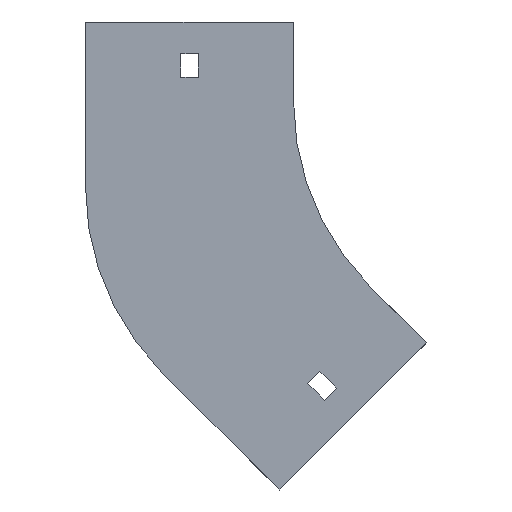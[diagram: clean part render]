
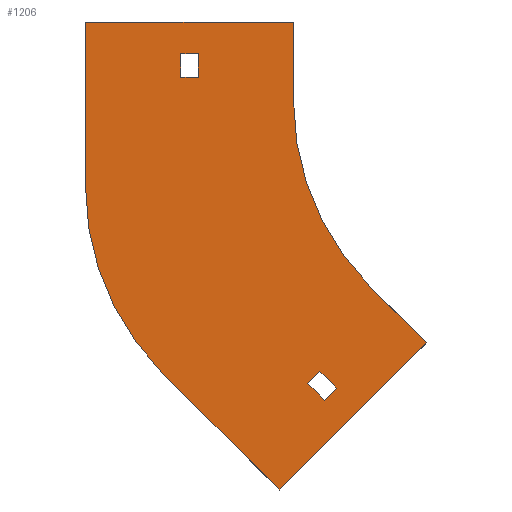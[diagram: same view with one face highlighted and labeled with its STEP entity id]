
A CAD part, front view. The second image highlights one B-rep face of the part: STEP entity #1206.
In plain terms, the highlighted planar face has unit normal (0, -1, 0).
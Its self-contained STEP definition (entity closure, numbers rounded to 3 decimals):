
#8 = LINE ( 'NONE', #466, #720 ) ;
#17 = LINE ( 'NONE', #1523, #1073 ) ;
#49 = DIRECTION ( 'NONE',  ( 0., 0., 1. ) ) ;
#69 = DIRECTION ( 'NONE',  ( 0., -1., 0. ) ) ;
#70 = EDGE_LOOP ( 'NONE', ( #1466, #823, #1079, #842 ) ) ;
#79 = EDGE_CURVE ( 'NONE', #1849, #1784, #17, .T. ) ;
#124 = DIRECTION ( 'NONE',  ( -0.707, 0., -0.707 ) ) ;
#152 = CARTESIAN_POINT ( 'NONE',  ( -83.615, 0., -109.071 ) ) ;
#184 = CARTESIAN_POINT ( 'NONE',  ( -49.497, 0., -91.924 ) ) ;
#197 = LINE ( 'NONE', #785, #782 ) ;
#210 = ORIENTED_EDGE ( 'NONE', *, *, #1355, .F. ) ;
#218 = ORIENTED_EDGE ( 'NONE', *, *, #1926, .F. ) ;
#233 = ORIENTED_EDGE ( 'NONE', *, *, #435, .F. ) ;
#251 = PLANE ( 'NONE',  #1440 ) ;
#257 = VERTEX_POINT ( 'NONE', #1884 ) ;
#266 = VECTOR ( 'NONE', #1333, 1000. ) ;
#278 = LINE ( 'NONE', #903, #1200 ) ;
#279 = FACE_BOUND ( 'NONE', #70, .T. ) ;
#286 = CARTESIAN_POINT ( 'NONE',  ( -136.25, 0., 18. ) ) ;
#294 = VECTOR ( 'NONE', #494, 1000. ) ;
#308 = LINE ( 'NONE', #443, #758 ) ;
#328 = CIRCLE ( 'NONE', #856, 100. ) ;
#330 = CARTESIAN_POINT ( 'NONE',  ( -179., 0., -32.723 ) ) ;
#332 = DIRECTION ( 'NONE',  ( -0.707, 0., 0.707 ) ) ;
#334 = CARTESIAN_POINT ( 'NONE',  ( -70.711, 0., -70.711 ) ) ;
#339 = EDGE_CURVE ( 'NONE', #369, #257, #278, .T. ) ;
#366 = VECTOR ( 'NONE', #866, 1000. ) ;
#369 = VERTEX_POINT ( 'NONE', #870 ) ;
#376 = LINE ( 'NONE', #858, #571 ) ;
#395 = VERTEX_POINT ( 'NONE', #907 ) ;
#435 = EDGE_CURVE ( 'NONE', #1784, #1778, #1855, .T. ) ;
#443 = CARTESIAN_POINT ( 'NONE',  ( -179., 0., -32.723 ) ) ;
#466 = CARTESIAN_POINT ( 'NONE',  ( -49.497, 0., -91.924 ) ) ;
#494 = DIRECTION ( 'NONE',  ( -0.707, 0., 0.707 ) ) ;
#502 = EDGE_CURVE ( 'NONE', #257, #1702, #628, .T. ) ;
#504 = VERTEX_POINT ( 'NONE', #1857 ) ;
#505 = LINE ( 'NONE', #653, #522 ) ;
#512 = EDGE_CURVE ( 'NONE', #1228, #395, #1837, .T. ) ;
#522 = VECTOR ( 'NONE', #1562, 1000. ) ;
#525 = EDGE_CURVE ( 'NONE', #504, #550, #328, .T. ) ;
#550 = VERTEX_POINT ( 'NONE', #334 ) ;
#554 = ORIENTED_EDGE ( 'NONE', *, *, #985, .F. ) ;
#571 = VECTOR ( 'NONE', #1910, 1000. ) ;
#608 = LINE ( 'NONE', #1063, #644 ) ;
#609 = DIRECTION ( 'NONE',  ( -0.707, 0., -0.707 ) ) ;
#624 = EDGE_CURVE ( 'NONE', #763, #504, #376, .T. ) ;
#628 = LINE ( 'NONE', #638, #1929 ) ;
#638 = CARTESIAN_POINT ( 'NONE',  ( -142.75, 0., 9. ) ) ;
#644 = VECTOR ( 'NONE', #1374, 1000. ) ;
#653 = CARTESIAN_POINT ( 'NONE',  ( -136.25, 0., 9. ) ) ;
#675 = DIRECTION ( 'NONE',  ( 0., 0., -1. ) ) ;
#696 = ORIENTED_EDGE ( 'NONE', *, *, #1514, .F. ) ;
#720 = VECTOR ( 'NONE', #609, 1000. ) ;
#753 = LINE ( 'NONE', #1922, #266 ) ;
#758 = VECTOR ( 'NONE', #1039, 1000. ) ;
#762 = VECTOR ( 'NONE', #1136, 1000. ) ;
#763 = VERTEX_POINT ( 'NONE', #1707 ) ;
#782 = VECTOR ( 'NONE', #1555, 1000. ) ;
#785 = CARTESIAN_POINT ( 'NONE',  ( -88.212, 0., -113.667 ) ) ;
#822 = DIRECTION ( 'NONE',  ( 0., 0., 1. ) ) ;
#823 = ORIENTED_EDGE ( 'NONE', *, *, #1681, .T. ) ;
#842 = ORIENTED_EDGE ( 'NONE', *, *, #339, .T. ) ;
#856 = AXIS2_PLACEMENT_3D ( 'NONE', #1108, #69, #675 ) ;
#858 = CARTESIAN_POINT ( 'NONE',  ( -100., 0., 30. ) ) ;
#866 = DIRECTION ( 'NONE',  ( 1., 0., 0. ) ) ;
#867 = EDGE_CURVE ( 'NONE', #395, #1074, #1468, .T. ) ;
#870 = CARTESIAN_POINT ( 'NONE',  ( -136.25, 0., 9. ) ) ;
#903 = CARTESIAN_POINT ( 'NONE',  ( -142.75, 0., 9. ) ) ;
#907 = CARTESIAN_POINT ( 'NONE',  ( -89.979, 0., -102.707 ) ) ;
#967 = CARTESIAN_POINT ( 'NONE',  ( -105.359, 0., -147.785 ) ) ;
#985 = EDGE_CURVE ( 'NONE', #550, #1030, #608, .T. ) ;
#989 = CARTESIAN_POINT ( 'NONE',  ( -149.711, 0., -103.434 ) ) ;
#1030 = VERTEX_POINT ( 'NONE', #184 ) ;
#1039 = DIRECTION ( 'NONE',  ( 0., 0., 1. ) ) ;
#1063 = CARTESIAN_POINT ( 'NONE',  ( -70.711, 0., -70.711 ) ) ;
#1073 = VECTOR ( 'NONE', #332, 1000. ) ;
#1074 = VERTEX_POINT ( 'NONE', #1492 ) ;
#1079 = ORIENTED_EDGE ( 'NONE', *, *, #1895, .T. ) ;
#1092 = CARTESIAN_POINT ( 'NONE',  ( -89.979, 0., -102.707 ) ) ;
#1108 = CARTESIAN_POINT ( 'NONE',  ( 0., 0., 0. ) ) ;
#1136 = DIRECTION ( 'NONE',  ( 1., 0., 0. ) ) ;
#1148 = VERTEX_POINT ( 'NONE', #1353 ) ;
#1156 = DIRECTION ( 'NONE',  ( 0., -1., 0. ) ) ;
#1167 = AXIS2_PLACEMENT_3D ( 'NONE', #1234, #1571, #49 ) ;
#1181 = DIRECTION ( 'NONE',  ( 0., 0., -1. ) ) ;
#1192 = EDGE_CURVE ( 'NONE', #1074, #1148, #753, .T. ) ;
#1200 = VECTOR ( 'NONE', #1302, 1000. ) ;
#1206 = ADVANCED_FACE ( 'NONE', ( #279, #1640, #1774 ), #251, .T. ) ;
#1209 = ORIENTED_EDGE ( 'NONE', *, *, #512, .F. ) ;
#1228 = VERTEX_POINT ( 'NONE', #152 ) ;
#1234 = CARTESIAN_POINT ( 'NONE',  ( -79., 0., -32.723 ) ) ;
#1289 = CARTESIAN_POINT ( 'NONE',  ( -94.576, 0., -107.303 ) ) ;
#1302 = DIRECTION ( 'NONE',  ( -1., 0., 0. ) ) ;
#1333 = DIRECTION ( 'NONE',  ( 0.707, 0., -0.707 ) ) ;
#1342 = CARTESIAN_POINT ( 'NONE',  ( -179., 0., 30. ) ) ;
#1353 = CARTESIAN_POINT ( 'NONE',  ( -88.212, 0., -113.667 ) ) ;
#1355 = EDGE_CURVE ( 'NONE', #1778, #1726, #308, .T. ) ;
#1374 = DIRECTION ( 'NONE',  ( 0.707, 0., -0.707 ) ) ;
#1393 = ORIENTED_EDGE ( 'NONE', *, *, #624, .F. ) ;
#1400 = ORIENTED_EDGE ( 'NONE', *, *, #79, .F. ) ;
#1410 = EDGE_LOOP ( 'NONE', ( #218, #210, #233, #1400, #1583, #554, #1596, #1393 ) ) ;
#1440 = AXIS2_PLACEMENT_3D ( 'NONE', #1615, #1156, #1181 ) ;
#1456 = VECTOR ( 'NONE', #124, 1000. ) ;
#1466 = ORIENTED_EDGE ( 'NONE', *, *, #502, .T. ) ;
#1468 = LINE ( 'NONE', #1289, #1456 ) ;
#1471 = LINE ( 'NONE', #1746, #366 ) ;
#1492 = CARTESIAN_POINT ( 'NONE',  ( -94.576, 0., -107.303 ) ) ;
#1514 = EDGE_CURVE ( 'NONE', #1148, #1228, #197, .T. ) ;
#1523 = CARTESIAN_POINT ( 'NONE',  ( -105.359, 0., -147.785 ) ) ;
#1546 = ORIENTED_EDGE ( 'NONE', *, *, #1192, .F. ) ;
#1555 = DIRECTION ( 'NONE',  ( 0.707, 0., 0.707 ) ) ;
#1562 = DIRECTION ( 'NONE',  ( 0., 0., -1. ) ) ;
#1571 = DIRECTION ( 'NONE',  ( 0., 1., 0. ) ) ;
#1583 = ORIENTED_EDGE ( 'NONE', *, *, #1767, .F. ) ;
#1596 = ORIENTED_EDGE ( 'NONE', *, *, #525, .F. ) ;
#1612 = CARTESIAN_POINT ( 'NONE',  ( -142.75, 0., 18. ) ) ;
#1615 = CARTESIAN_POINT ( 'NONE',  ( 0., 0., 0. ) ) ;
#1617 = EDGE_LOOP ( 'NONE', ( #696, #1546, #1872, #1209 ) ) ;
#1640 = FACE_OUTER_BOUND ( 'NONE', #1410, .T. ) ;
#1681 = EDGE_CURVE ( 'NONE', #1702, #1878, #1471, .T. ) ;
#1702 = VERTEX_POINT ( 'NONE', #1612 ) ;
#1707 = CARTESIAN_POINT ( 'NONE',  ( -100., 0., 30. ) ) ;
#1720 = LINE ( 'NONE', #1897, #762 ) ;
#1726 = VERTEX_POINT ( 'NONE', #1342 ) ;
#1746 = CARTESIAN_POINT ( 'NONE',  ( -142.75, 0., 18. ) ) ;
#1767 = EDGE_CURVE ( 'NONE', #1030, #1849, #8, .T. ) ;
#1774 = FACE_BOUND ( 'NONE', #1617, .T. ) ;
#1778 = VERTEX_POINT ( 'NONE', #330 ) ;
#1784 = VERTEX_POINT ( 'NONE', #989 ) ;
#1837 = LINE ( 'NONE', #1092, #294 ) ;
#1849 = VERTEX_POINT ( 'NONE', #967 ) ;
#1855 = CIRCLE ( 'NONE', #1167, 100. ) ;
#1857 = CARTESIAN_POINT ( 'NONE',  ( -100., 0., 0. ) ) ;
#1872 = ORIENTED_EDGE ( 'NONE', *, *, #867, .F. ) ;
#1878 = VERTEX_POINT ( 'NONE', #286 ) ;
#1884 = CARTESIAN_POINT ( 'NONE',  ( -142.75, 0., 9. ) ) ;
#1895 = EDGE_CURVE ( 'NONE', #1878, #369, #505, .T. ) ;
#1897 = CARTESIAN_POINT ( 'NONE',  ( -179., 0., 30. ) ) ;
#1910 = DIRECTION ( 'NONE',  ( 0., 0., -1. ) ) ;
#1922 = CARTESIAN_POINT ( 'NONE',  ( -94.576, 0., -107.303 ) ) ;
#1926 = EDGE_CURVE ( 'NONE', #1726, #763, #1720, .T. ) ;
#1929 = VECTOR ( 'NONE', #822, 1000. ) ;
